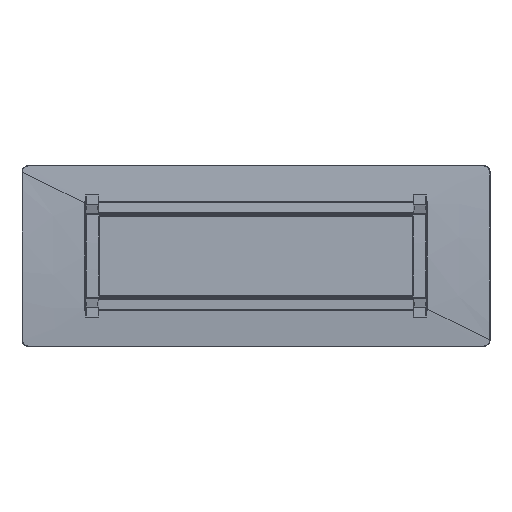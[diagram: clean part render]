
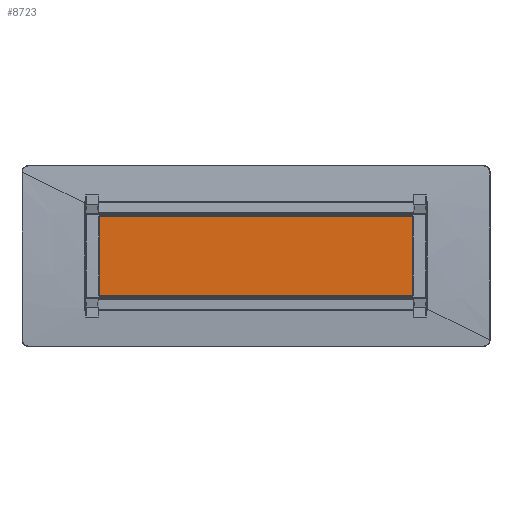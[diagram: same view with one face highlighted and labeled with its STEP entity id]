
A CAD part, front view. The second image highlights one B-rep face of the part: STEP entity #8723.
In plain terms, the highlighted planar face has unit normal (0, -1, 0).
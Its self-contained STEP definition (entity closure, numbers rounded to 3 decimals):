
#100 = EDGE_CURVE ( 'NONE', #7728, #9357, #4513, .T. ) ;
#319 = AXIS2_PLACEMENT_3D ( 'NONE', #10195, #809, #5131 ) ;
#523 = VERTEX_POINT ( 'NONE', #8898 ) ;
#809 = DIRECTION ( 'NONE',  ( 0., -1., 0. ) ) ;
#873 = CARTESIAN_POINT ( 'NONE',  ( 732., 717., -185. ) ) ;
#1042 = DIRECTION ( 'NONE',  ( 0., 0., 1. ) ) ;
#1111 = DIRECTION ( 'NONE',  ( 0., 0., 1. ) ) ;
#1158 = DIRECTION ( 'NONE',  ( 0., 0., -1. ) ) ;
#1336 = CARTESIAN_POINT ( 'NONE',  ( -736., 717., -181. ) ) ;
#1357 = ORIENTED_EDGE ( 'NONE', *, *, #3536, .T. ) ;
#1988 = VECTOR ( 'NONE', #3913, 1000. ) ;
#2119 = CARTESIAN_POINT ( 'NONE',  ( -736., 717., 181. ) ) ;
#2304 = CARTESIAN_POINT ( 'NONE',  ( 736., 717., -430. ) ) ;
#2597 = VERTEX_POINT ( 'NONE', #8134 ) ;
#2622 = CARTESIAN_POINT ( 'NONE',  ( 736., 717., -181. ) ) ;
#3322 = AXIS2_PLACEMENT_3D ( 'NONE', #10980, #9492, #1042 ) ;
#3445 = LINE ( 'NONE', #6371, #5371 ) ;
#3536 = EDGE_CURVE ( 'NONE', #9759, #3891, #7778, .T. ) ;
#3891 = VERTEX_POINT ( 'NONE', #2119 ) ;
#3899 = VERTEX_POINT ( 'NONE', #1336 ) ;
#3913 = DIRECTION ( 'NONE',  ( 0., 0., 1. ) ) ;
#4131 = ORIENTED_EDGE ( 'NONE', *, *, #10199, .T. ) ;
#4292 = EDGE_CURVE ( 'NONE', #3899, #7728, #9711, .T. ) ;
#4310 = AXIS2_PLACEMENT_3D ( 'NONE', #5432, #7822, #7985 ) ;
#4513 = LINE ( 'NONE', #9572, #8231 ) ;
#4598 = CARTESIAN_POINT ( 'NONE',  ( -732., 717., -185. ) ) ;
#4671 = PLANE ( 'NONE',  #8015 ) ;
#4770 = FACE_OUTER_BOUND ( 'NONE', #6969, .T. ) ;
#4950 = ORIENTED_EDGE ( 'NONE', *, *, #9722, .T. ) ;
#5058 = LINE ( 'NONE', #5948, #8555 ) ;
#5131 = DIRECTION ( 'NONE',  ( 0., 0., 1. ) ) ;
#5371 = VECTOR ( 'NONE', #1158, 1000. ) ;
#5432 = CARTESIAN_POINT ( 'NONE',  ( 732., 717., -181. ) ) ;
#5483 = CARTESIAN_POINT ( 'NONE',  ( -732., 717., 185. ) ) ;
#5948 = CARTESIAN_POINT ( 'NONE',  ( 1105., 717., 185. ) ) ;
#6129 = ORIENTED_EDGE ( 'NONE', *, *, #7268, .T. ) ;
#6233 = CIRCLE ( 'NONE', #7648, 4. ) ;
#6335 = EDGE_CURVE ( 'NONE', #2597, #523, #6233, .T. ) ;
#6371 = CARTESIAN_POINT ( 'NONE',  ( -736., 717., -430. ) ) ;
#6445 = ORIENTED_EDGE ( 'NONE', *, *, #10677, .T. ) ;
#6447 = DIRECTION ( 'NONE',  ( 0., 1., 0. ) ) ;
#6841 = CARTESIAN_POINT ( 'NONE',  ( 732., 717., 181. ) ) ;
#6969 = EDGE_LOOP ( 'NONE', ( #1357, #4950, #7172, #8531, #6445, #6129, #10427, #4131 ) ) ;
#7172 = ORIENTED_EDGE ( 'NONE', *, *, #4292, .T. ) ;
#7268 = EDGE_CURVE ( 'NONE', #8338, #2597, #8094, .T. ) ;
#7648 = AXIS2_PLACEMENT_3D ( 'NONE', #6841, #7824, #1111 ) ;
#7728 = VERTEX_POINT ( 'NONE', #4598 ) ;
#7778 = CIRCLE ( 'NONE', #3322, 4. ) ;
#7822 = DIRECTION ( 'NONE',  ( 0., -1., 0. ) ) ;
#7824 = DIRECTION ( 'NONE',  ( 0., -1., 0. ) ) ;
#7985 = DIRECTION ( 'NONE',  ( 0., 0., 1. ) ) ;
#8015 = AXIS2_PLACEMENT_3D ( 'NONE', #9941, #6447, #8168 ) ;
#8094 = LINE ( 'NONE', #2304, #1988 ) ;
#8118 = DIRECTION ( 'NONE',  ( 1., 0., 0. ) ) ;
#8134 = CARTESIAN_POINT ( 'NONE',  ( 736., 717., 181. ) ) ;
#8168 = DIRECTION ( 'NONE',  ( 0., 0., 1. ) ) ;
#8231 = VECTOR ( 'NONE', #8118, 1000. ) ;
#8338 = VERTEX_POINT ( 'NONE', #2622 ) ;
#8531 = ORIENTED_EDGE ( 'NONE', *, *, #100, .T. ) ;
#8555 = VECTOR ( 'NONE', #9347, 1000. ) ;
#8723 = ADVANCED_FACE ( 'NONE', ( #4770 ), #4671, .F. ) ;
#8898 = CARTESIAN_POINT ( 'NONE',  ( 732., 717., 185. ) ) ;
#9080 = CIRCLE ( 'NONE', #4310, 4. ) ;
#9347 = DIRECTION ( 'NONE',  ( -1., 0., 0. ) ) ;
#9357 = VERTEX_POINT ( 'NONE', #873 ) ;
#9492 = DIRECTION ( 'NONE',  ( 0., -1., 0. ) ) ;
#9572 = CARTESIAN_POINT ( 'NONE',  ( 1105., 717., -185. ) ) ;
#9711 = CIRCLE ( 'NONE', #319, 4. ) ;
#9722 = EDGE_CURVE ( 'NONE', #3891, #3899, #3445, .T. ) ;
#9759 = VERTEX_POINT ( 'NONE', #5483 ) ;
#9941 = CARTESIAN_POINT ( 'NONE',  ( 1105., 717., -430. ) ) ;
#10195 = CARTESIAN_POINT ( 'NONE',  ( -732., 717., -181. ) ) ;
#10199 = EDGE_CURVE ( 'NONE', #523, #9759, #5058, .T. ) ;
#10427 = ORIENTED_EDGE ( 'NONE', *, *, #6335, .T. ) ;
#10677 = EDGE_CURVE ( 'NONE', #9357, #8338, #9080, .T. ) ;
#10980 = CARTESIAN_POINT ( 'NONE',  ( -732., 717., 181. ) ) ;
